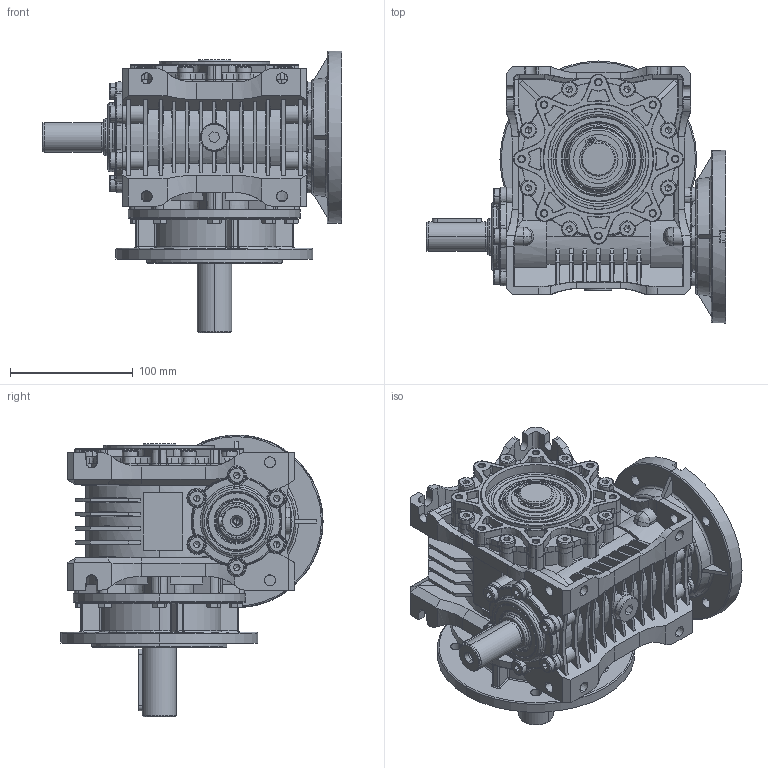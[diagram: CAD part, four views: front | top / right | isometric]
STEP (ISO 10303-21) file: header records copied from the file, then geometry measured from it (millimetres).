
FILE_DESCRIPTION (( 'STEP AP203' ), '1' );
FILE_NAME ('MR-63_140-24_K160-1_WJ-1_3D.STEP', '2023-01-23T11:39:04', ( '' ), ( '' ), 'SwSTEP 2.0', 'SolidWorks 2022', '' );
FILE_SCHEMA (( 'CONFIG_CONTROL_DESIGN' ));
Products named in the file (1): MR-63_140-24_K160-1_WJ-1_3D
Bounding box: 243.6 x 213.25 x 229.08 mm (x, y, z)
Volume: 2523543.5 mm3; surface area: 420383.3 mm2
Topology: 1 solids, 75 shells, 4292 faces, 10541 edges, 6388 vertices
Faces by surface type: plane 1369, cone 998, cylinder 718, bspline 550, torus 504, sphere 153
Entity records: 142613 total; most frequent: CARTESIAN_POINT 46515, ORIENTED_EDGE 20750, DIRECTION 19690, EDGE_CURVE 10375, AXIS2_PLACEMENT_3D 7936, VERTEX_POINT 6366, EDGE_LOOP 4493, ADVANCED_FACE 4292
